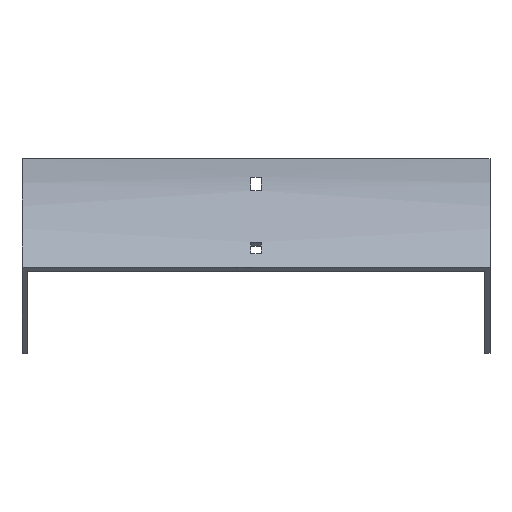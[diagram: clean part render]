
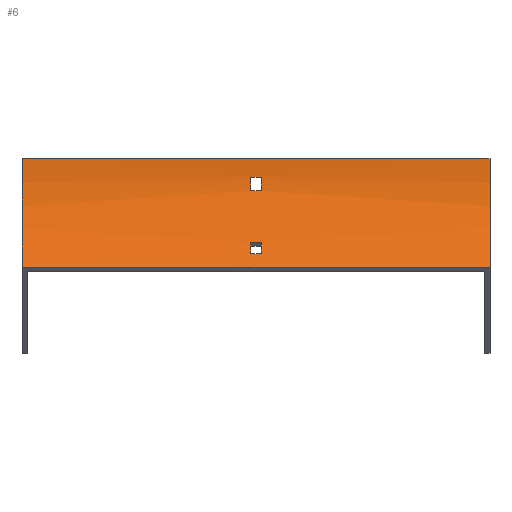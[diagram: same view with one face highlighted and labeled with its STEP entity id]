
A CAD part, front view. The second image highlights one B-rep face of the part: STEP entity #6.
In plain terms, the highlighted cylindrical face has radius 100 mm (diameter 200 mm), a partial arc.
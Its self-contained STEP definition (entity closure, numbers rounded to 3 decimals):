
#1 = DIRECTION ( 'NONE',  ( -1., 0., 0. ) ) ;
#6 = ADVANCED_FACE ( 'NONE', ( #718, #1252, #203 ), #1519, .F. ) ;
#9 = LINE ( 'NONE', #830, #1068 ) ;
#13 = CIRCLE ( 'NONE', #1375, 100. ) ;
#47 = LINE ( 'NONE', #1463, #1467 ) ;
#91 = EDGE_CURVE ( 'NONE', #937, #1026, #98, .T. ) ;
#92 = DIRECTION ( 'NONE',  ( 1., 0., 0. ) ) ;
#98 = LINE ( 'NONE', #1195, #1123 ) ;
#102 = VECTOR ( 'NONE', #311, 1000. ) ;
#123 = VERTEX_POINT ( 'NONE', #763 ) ;
#153 = CARTESIAN_POINT ( 'NONE',  ( 3.25, -16.017, -54.285 ) ) ;
#196 = ORIENTED_EDGE ( 'NONE', *, *, #721, .T. ) ;
#203 = FACE_BOUND ( 'NONE', #1144, .T. ) ;
#204 = DIRECTION ( 'NONE',  ( 1., 0., 0. ) ) ;
#205 = VERTEX_POINT ( 'NONE', #153 ) ;
#241 = CIRCLE ( 'NONE', #1446, 100. ) ;
#242 = CIRCLE ( 'NONE', #324, 100. ) ;
#250 = ORIENTED_EDGE ( 'NONE', *, *, #387, .F. ) ;
#308 = VERTEX_POINT ( 'NONE', #1553 ) ;
#311 = DIRECTION ( 'NONE',  ( -1., 0., 0. ) ) ;
#314 = CARTESIAN_POINT ( 'NONE',  ( 3.25, -2.23, -21. ) ) ;
#316 = EDGE_CURVE ( 'NONE', #765, #457, #644, .T. ) ;
#321 = CARTESIAN_POINT ( 'NONE',  ( -3.25, -2.23, -21. ) ) ;
#324 = AXIS2_PLACEMENT_3D ( 'NONE', #1393, #204, #739 ) ;
#335 = DIRECTION ( 'NONE',  ( -1., 0., 0. ) ) ;
#356 = CIRCLE ( 'NONE', #1632, 100. ) ;
#363 = CARTESIAN_POINT ( 'NONE',  ( -3.25, -100., 0. ) ) ;
#364 = ORIENTED_EDGE ( 'NONE', *, *, #316, .T. ) ;
#370 = CARTESIAN_POINT ( 'NONE',  ( 152., -0.723, -12. ) ) ;
#387 = EDGE_CURVE ( 'NONE', #308, #123, #806, .T. ) ;
#445 = DIRECTION ( 'NONE',  ( 0., 0., 1. ) ) ;
#457 = VERTEX_POINT ( 'NONE', #321 ) ;
#474 = CARTESIAN_POINT ( 'NONE',  ( -152., 0., 0. ) ) ;
#505 = CARTESIAN_POINT ( 'NONE',  ( 152., -2.23, -21. ) ) ;
#519 = EDGE_CURVE ( 'NONE', #205, #877, #47, .T. ) ;
#560 = EDGE_LOOP ( 'NONE', ( #196, #250, #953, #1498 ) ) ;
#562 = CARTESIAN_POINT ( 'NONE',  ( 152., -29.289, -70.711 ) ) ;
#587 = DIRECTION ( 'NONE',  ( -1., 0., 0. ) ) ;
#596 = ORIENTED_EDGE ( 'NONE', *, *, #643, .T. ) ;
#643 = EDGE_CURVE ( 'NONE', #1055, #1397, #1032, .T. ) ;
#644 = LINE ( 'NONE', #505, #1178 ) ;
#663 = ORIENTED_EDGE ( 'NONE', *, *, #91, .F. ) ;
#676 = VECTOR ( 'NONE', #1008, 1000. ) ;
#679 = CARTESIAN_POINT ( 'NONE',  ( 3.25, -100., 0. ) ) ;
#688 = CARTESIAN_POINT ( 'NONE',  ( 152., -100., 0. ) ) ;
#711 = ORIENTED_EDGE ( 'NONE', *, *, #852, .F. ) ;
#718 = FACE_OUTER_BOUND ( 'NONE', #560, .T. ) ;
#721 = EDGE_CURVE ( 'NONE', #1609, #123, #1400, .T. ) ;
#734 = DIRECTION ( 'NONE',  ( 1., 0., 0. ) ) ;
#739 = DIRECTION ( 'NONE',  ( 0., 0., 1. ) ) ;
#748 = ORIENTED_EDGE ( 'NONE', *, *, #1459, .T. ) ;
#752 = CARTESIAN_POINT ( 'NONE',  ( -3.25, -21.315, -61.714 ) ) ;
#753 = DIRECTION ( 'NONE',  ( 0., 0., 1. ) ) ;
#757 = CARTESIAN_POINT ( 'NONE',  ( 3.25, -21.315, -61.714 ) ) ;
#763 = CARTESIAN_POINT ( 'NONE',  ( -152., -29.289, -70.711 ) ) ;
#765 = VERTEX_POINT ( 'NONE', #314 ) ;
#780 = CARTESIAN_POINT ( 'NONE',  ( -152., -100., 0. ) ) ;
#806 = LINE ( 'NONE', #562, #102 ) ;
#830 = CARTESIAN_POINT ( 'NONE',  ( 152., 0., 0. ) ) ;
#842 = ORIENTED_EDGE ( 'NONE', *, *, #1154, .T. ) ;
#849 = CARTESIAN_POINT ( 'NONE',  ( 3.25, -100., 0. ) ) ;
#852 = EDGE_CURVE ( 'NONE', #877, #937, #356, .T. ) ;
#877 = VERTEX_POINT ( 'NONE', #1275 ) ;
#932 = DIRECTION ( 'NONE',  ( -1., 0., 0. ) ) ;
#937 = VERTEX_POINT ( 'NONE', #752 ) ;
#943 = DIRECTION ( 'NONE',  ( -1., 0., 0. ) ) ;
#952 = DIRECTION ( 'NONE',  ( 0., 0., 1. ) ) ;
#953 = ORIENTED_EDGE ( 'NONE', *, *, #963, .F. ) ;
#963 = EDGE_CURVE ( 'NONE', #1254, #308, #241, .T. ) ;
#979 = CARTESIAN_POINT ( 'NONE',  ( 152., -100., 0. ) ) ;
#1008 = DIRECTION ( 'NONE',  ( 1., 0., 0. ) ) ;
#1026 = VERTEX_POINT ( 'NONE', #757 ) ;
#1032 = LINE ( 'NONE', #370, #676 ) ;
#1055 = VERTEX_POINT ( 'NONE', #1536 ) ;
#1068 = VECTOR ( 'NONE', #1356, 1000. ) ;
#1099 = EDGE_LOOP ( 'NONE', ( #364, #748, #596, #842 ) ) ;
#1115 = ORIENTED_EDGE ( 'NONE', *, *, #519, .F. ) ;
#1123 = VECTOR ( 'NONE', #92, 1000. ) ;
#1144 = EDGE_LOOP ( 'NONE', ( #711, #1115, #1341, #663 ) ) ;
#1147 = DIRECTION ( 'NONE',  ( 0., 0., -1. ) ) ;
#1154 = EDGE_CURVE ( 'NONE', #1397, #765, #13, .T. ) ;
#1162 = AXIS2_PLACEMENT_3D ( 'NONE', #780, #932, #1306 ) ;
#1178 = VECTOR ( 'NONE', #1325, 1000. ) ;
#1195 = CARTESIAN_POINT ( 'NONE',  ( 152., -21.315, -61.714 ) ) ;
#1240 = AXIS2_PLACEMENT_3D ( 'NONE', #849, #734, #753 ) ;
#1252 = FACE_BOUND ( 'NONE', #1099, .T. ) ;
#1254 = VERTEX_POINT ( 'NONE', #1385 ) ;
#1275 = CARTESIAN_POINT ( 'NONE',  ( -3.25, -16.017, -54.285 ) ) ;
#1306 = DIRECTION ( 'NONE',  ( 0., 0., 1. ) ) ;
#1325 = DIRECTION ( 'NONE',  ( -1., 0., 0. ) ) ;
#1332 = EDGE_CURVE ( 'NONE', #1254, #1609, #9, .T. ) ;
#1341 = ORIENTED_EDGE ( 'NONE', *, *, #1366, .F. ) ;
#1344 = DIRECTION ( 'NONE',  ( -1., 0., 0. ) ) ;
#1356 = DIRECTION ( 'NONE',  ( -1., 0., 0. ) ) ;
#1366 = EDGE_CURVE ( 'NONE', #1026, #205, #1401, .T. ) ;
#1375 = AXIS2_PLACEMENT_3D ( 'NONE', #679, #1, #1465 ) ;
#1385 = CARTESIAN_POINT ( 'NONE',  ( 152., 0., 0. ) ) ;
#1393 = CARTESIAN_POINT ( 'NONE',  ( -3.25, -100., 0. ) ) ;
#1397 = VERTEX_POINT ( 'NONE', #1503 ) ;
#1400 = CIRCLE ( 'NONE', #1162, 100. ) ;
#1401 = CIRCLE ( 'NONE', #1240, 100. ) ;
#1420 = AXIS2_PLACEMENT_3D ( 'NONE', #979, #587, #445 ) ;
#1446 = AXIS2_PLACEMENT_3D ( 'NONE', #688, #943, #952 ) ;
#1459 = EDGE_CURVE ( 'NONE', #457, #1055, #242, .T. ) ;
#1463 = CARTESIAN_POINT ( 'NONE',  ( 152., -16.017, -54.285 ) ) ;
#1465 = DIRECTION ( 'NONE',  ( 0., 0., -1. ) ) ;
#1467 = VECTOR ( 'NONE', #1344, 1000. ) ;
#1498 = ORIENTED_EDGE ( 'NONE', *, *, #1332, .T. ) ;
#1503 = CARTESIAN_POINT ( 'NONE',  ( 3.25, -0.723, -12. ) ) ;
#1519 = CYLINDRICAL_SURFACE ( 'NONE', #1420, 100. ) ;
#1536 = CARTESIAN_POINT ( 'NONE',  ( -3.25, -0.723, -12. ) ) ;
#1553 = CARTESIAN_POINT ( 'NONE',  ( 152., -29.289, -70.711 ) ) ;
#1609 = VERTEX_POINT ( 'NONE', #474 ) ;
#1632 = AXIS2_PLACEMENT_3D ( 'NONE', #363, #335, #1147 ) ;
